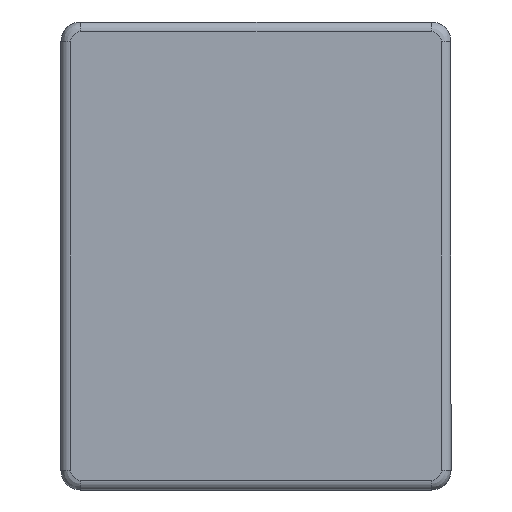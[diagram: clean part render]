
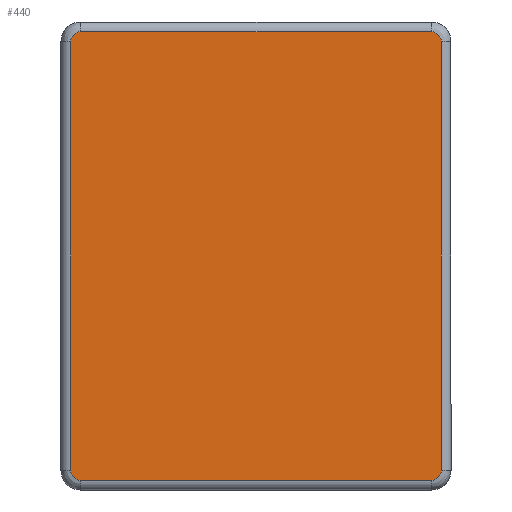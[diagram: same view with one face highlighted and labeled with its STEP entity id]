
A CAD part, left-side view. The second image highlights one B-rep face of the part: STEP entity #440.
In plain terms, the highlighted planar face has unit normal (-1, 0, 0).
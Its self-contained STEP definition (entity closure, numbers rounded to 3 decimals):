
#35=PLANE('',#505);
#55=FACE_OUTER_BOUND('',#87,.T.);
#87=EDGE_LOOP('',(#350,#351,#352,#353,#354,#355,#356,#357));
#108=LINE('',#726,#135);
#110=LINE('',#746,#137);
#112=LINE('',#766,#139);
#113=LINE('',#782,#140);
#135=VECTOR('',#570,10.);
#137=VECTOR('',#582,10.);
#139=VECTOR('',#594,10.);
#140=VECTOR('',#603,10.);
#165=CIRCLE('',#480,0.5);
#171=CIRCLE('',#487,0.5);
#175=CIRCLE('',#492,0.5);
#179=CIRCLE('',#497,0.5);
#199=VERTEX_POINT('',#714);
#200=VERTEX_POINT('',#716);
#202=VERTEX_POINT('',#722);
#204=VERTEX_POINT('',#736);
#206=VERTEX_POINT('',#742);
#208=VERTEX_POINT('',#756);
#210=VERTEX_POINT('',#762);
#212=VERTEX_POINT('',#776);
#236=EDGE_CURVE('',#199,#200,#165,.T.);
#241=EDGE_CURVE('',#200,#202,#108,.T.);
#244=EDGE_CURVE('',#202,#204,#171,.T.);
#247=EDGE_CURVE('',#204,#206,#110,.T.);
#250=EDGE_CURVE('',#206,#208,#175,.T.);
#253=EDGE_CURVE('',#208,#210,#112,.T.);
#256=EDGE_CURVE('',#210,#212,#179,.T.);
#257=EDGE_CURVE('',#212,#199,#113,.T.);
#350=ORIENTED_EDGE('',*,*,#236,.F.);
#351=ORIENTED_EDGE('',*,*,#257,.F.);
#352=ORIENTED_EDGE('',*,*,#256,.F.);
#353=ORIENTED_EDGE('',*,*,#253,.F.);
#354=ORIENTED_EDGE('',*,*,#250,.F.);
#355=ORIENTED_EDGE('',*,*,#247,.F.);
#356=ORIENTED_EDGE('',*,*,#244,.F.);
#357=ORIENTED_EDGE('',*,*,#241,.F.);
#440=ADVANCED_FACE('',(#55),#35,.F.);
#480=AXIS2_PLACEMENT_3D('',#717,#559,#560);
#487=AXIS2_PLACEMENT_3D('',#740,#575,#576);
#492=AXIS2_PLACEMENT_3D('',#760,#587,#588);
#497=AXIS2_PLACEMENT_3D('',#780,#599,#600);
#505=AXIS2_PLACEMENT_3D('',#802,#624,#625);
#559=DIRECTION('center_axis',(1.,0.,0.));
#560=DIRECTION('ref_axis',(0.,0.707,-0.707));
#570=DIRECTION('',(0.,0.,1.));
#575=DIRECTION('center_axis',(1.,0.,0.));
#576=DIRECTION('ref_axis',(0.,0.707,0.707));
#582=DIRECTION('',(0.,-1.,0.));
#587=DIRECTION('center_axis',(1.,0.,0.));
#588=DIRECTION('ref_axis',(0.,-0.707,0.707));
#594=DIRECTION('',(0.,0.,-1.));
#599=DIRECTION('center_axis',(1.,0.,0.));
#600=DIRECTION('ref_axis',(0.,-0.707,-0.707));
#603=DIRECTION('',(0.,1.,0.));
#624=DIRECTION('center_axis',(1.,0.,0.));
#625=DIRECTION('ref_axis',(0.,1.,0.));
#714=CARTESIAN_POINT('',(0.,9.,-11.5));
#716=CARTESIAN_POINT('',(0.,9.5,-11.));
#717=CARTESIAN_POINT('Origin',(0.,9.,-11.));
#722=CARTESIAN_POINT('',(0.,9.5,11.));
#726=CARTESIAN_POINT('',(0.,9.5,-6.));
#736=CARTESIAN_POINT('',(0.,9.,11.5));
#740=CARTESIAN_POINT('Origin',(0.,9.,11.));
#742=CARTESIAN_POINT('',(0.,-9.,11.5));
#746=CARTESIAN_POINT('',(0.,5.,11.5));
#756=CARTESIAN_POINT('',(0.,-9.5,11.));
#760=CARTESIAN_POINT('Origin',(0.,-9.,11.));
#762=CARTESIAN_POINT('',(0.,-9.5,-11.));
#766=CARTESIAN_POINT('',(0.,-9.5,6.));
#776=CARTESIAN_POINT('',(0.,-9.,-11.5));
#780=CARTESIAN_POINT('Origin',(0.,-9.,-11.));
#782=CARTESIAN_POINT('',(0.,-5.,-11.5));
#802=CARTESIAN_POINT('Origin',(0.,0.,0.));
